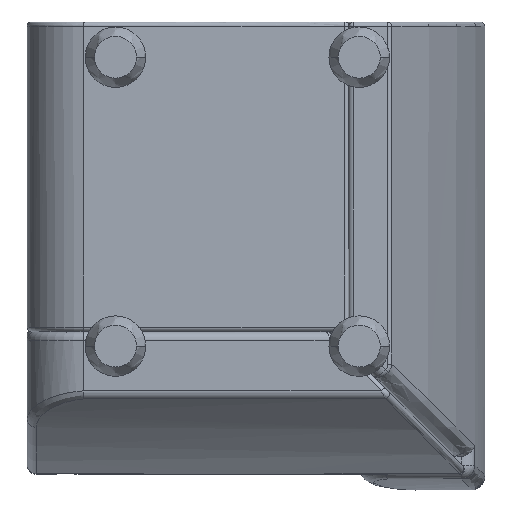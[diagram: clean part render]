
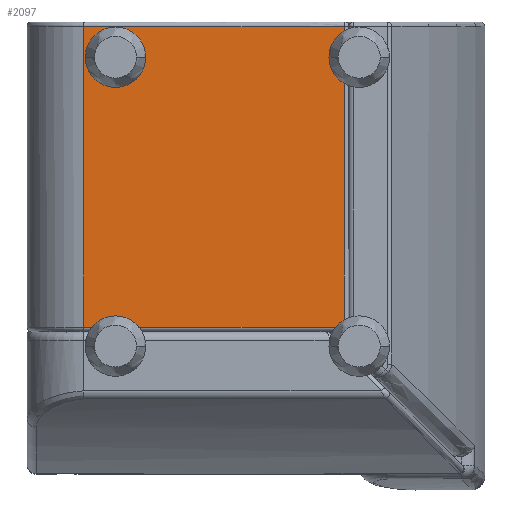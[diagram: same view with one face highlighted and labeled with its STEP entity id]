
A CAD part, front view. The second image highlights one B-rep face of the part: STEP entity #2097.
In plain terms, the highlighted planar face has unit normal (0, -1, 0).
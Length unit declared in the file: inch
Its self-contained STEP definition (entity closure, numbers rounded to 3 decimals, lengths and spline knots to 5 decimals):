
#182=LINE('',#7179,#278);
#183=LINE('',#7181,#279);
#184=LINE('',#7183,#280);
#185=LINE('',#7184,#281);
#278=VECTOR('',#2771,39.37008);
#279=VECTOR('',#2772,39.37008);
#280=VECTOR('',#2773,0.3937);
#281=VECTOR('',#2774,0.3937);
#306=PLANE('',#2324);
#498=FACE_OUTER_BOUND('',#633,.T.);
#633=EDGE_LOOP('',(#1688,#1689,#1690,#1691));
#930=VERTEX_POINT('',#7177);
#931=VERTEX_POINT('',#7178);
#932=VERTEX_POINT('',#7180);
#933=VERTEX_POINT('',#7182);
#1187=EDGE_CURVE('',#930,#931,#182,.T.);
#1188=EDGE_CURVE('',#931,#932,#183,.T.);
#1189=EDGE_CURVE('',#932,#933,#184,.T.);
#1190=EDGE_CURVE('',#933,#930,#185,.T.);
#1688=ORIENTED_EDGE('',*,*,#1187,.T.);
#1689=ORIENTED_EDGE('',*,*,#1188,.T.);
#1690=ORIENTED_EDGE('',*,*,#1189,.T.);
#1691=ORIENTED_EDGE('',*,*,#1190,.T.);
#2097=ADVANCED_FACE('',(#498),#306,.T.);
#2324=AXIS2_PLACEMENT_3D('',#7176,#2769,#2770);
#2769=DIRECTION('center_axis',(0.,-1.,
0.));
#2770=DIRECTION('ref_axis',(-1.,0.,0.));
#2771=DIRECTION('',(0.,0.,-1.));
#2772=DIRECTION('',(1.,0.,0.));
#2773=DIRECTION('',(0.,0.,1.));
#2774=DIRECTION('',(-1.,0.,0.));
#7176=CARTESIAN_POINT('Origin',(3.27633,5.39257,42.43484));
#7177=CARTESIAN_POINT('',(-7.82497,5.38952,10.27434));
#7178=CARTESIAN_POINT('',(-7.82497,5.38952,-15.94138));
#7179=CARTESIAN_POINT('',(-7.82497,5.38952,42.43484));
#7180=CARTESIAN_POINT('',(14.86902,5.39575,-15.94138));
#7181=CARTESIAN_POINT('',(3.27633,5.39257,-15.94138));
#7182=CARTESIAN_POINT('',(14.86902,5.39575,10.27434));
#7183=CARTESIAN_POINT('',(14.86902,5.39575,-15.94138));
#7184=CARTESIAN_POINT('',(14.86902,5.39575,10.27434));
